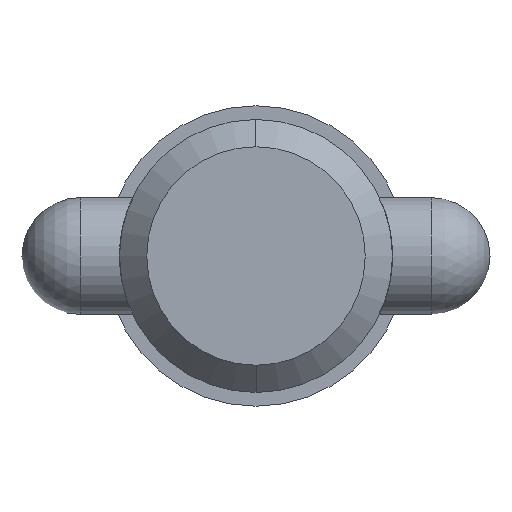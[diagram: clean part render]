
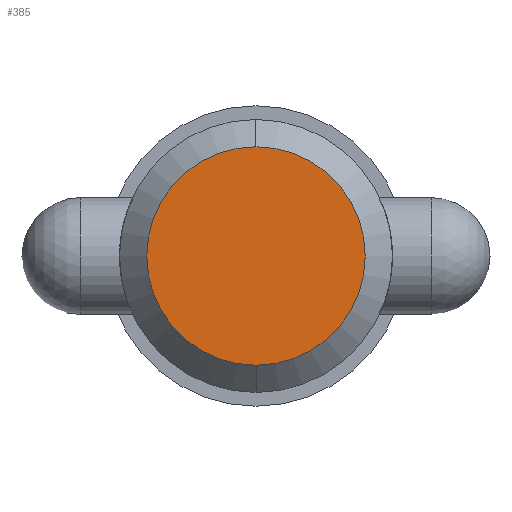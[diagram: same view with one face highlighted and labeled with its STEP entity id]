
A CAD part, left-side view. The second image highlights one B-rep face of the part: STEP entity #385.
In plain terms, the highlighted planar face has unit normal (-1, 0, 0).
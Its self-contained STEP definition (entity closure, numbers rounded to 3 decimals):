
#6 = CIRCLE ( 'NONE', #600, 8.892 ) ;
#35 = DIRECTION ( 'NONE',  ( 0., 0., -1. ) ) ;
#76 = DIRECTION ( 'NONE',  ( 0., 0., 1. ) ) ;
#91 = AXIS2_PLACEMENT_3D ( 'NONE', #299, #391, #622 ) ;
#94 = CARTESIAN_POINT ( 'NONE',  ( 0., 0., 0. ) ) ;
#113 = ORIENTED_EDGE ( 'NONE', *, *, #628, .F. ) ;
#198 = VERTEX_POINT ( 'NONE', #215 ) ;
#201 = DIRECTION ( 'NONE',  ( 1., 0., 0. ) ) ;
#215 = CARTESIAN_POINT ( 'NONE',  ( 0., 0., -8.892 ) ) ;
#244 = PLANE ( 'NONE',  #434 ) ;
#299 = CARTESIAN_POINT ( 'NONE',  ( 0., 0., 0. ) ) ;
#333 = CARTESIAN_POINT ( 'NONE',  ( 0., 0., 8.892 ) ) ;
#385 = ADVANCED_FACE ( 'NONE', ( #396 ), #244, .T. ) ;
#391 = DIRECTION ( 'NONE',  ( 1., 0., 0. ) ) ;
#396 = FACE_OUTER_BOUND ( 'NONE', #558, .T. ) ;
#434 = AXIS2_PLACEMENT_3D ( 'NONE', #988, #898, #76 ) ;
#457 = EDGE_CURVE ( 'NONE', #198, #686, #6, .T. ) ;
#551 = CIRCLE ( 'NONE', #91, 8.892 ) ;
#558 = EDGE_LOOP ( 'NONE', ( #611, #113 ) ) ;
#600 = AXIS2_PLACEMENT_3D ( 'NONE', #94, #201, #35 ) ;
#611 = ORIENTED_EDGE ( 'NONE', *, *, #457, .F. ) ;
#622 = DIRECTION ( 'NONE',  ( 0., 0., -1. ) ) ;
#628 = EDGE_CURVE ( 'NONE', #686, #198, #551, .T. ) ;
#686 = VERTEX_POINT ( 'NONE', #333 ) ;
#898 = DIRECTION ( 'NONE',  ( -1., 0., 0. ) ) ;
#988 = CARTESIAN_POINT ( 'NONE',  ( 0., 0., 0. ) ) ;
